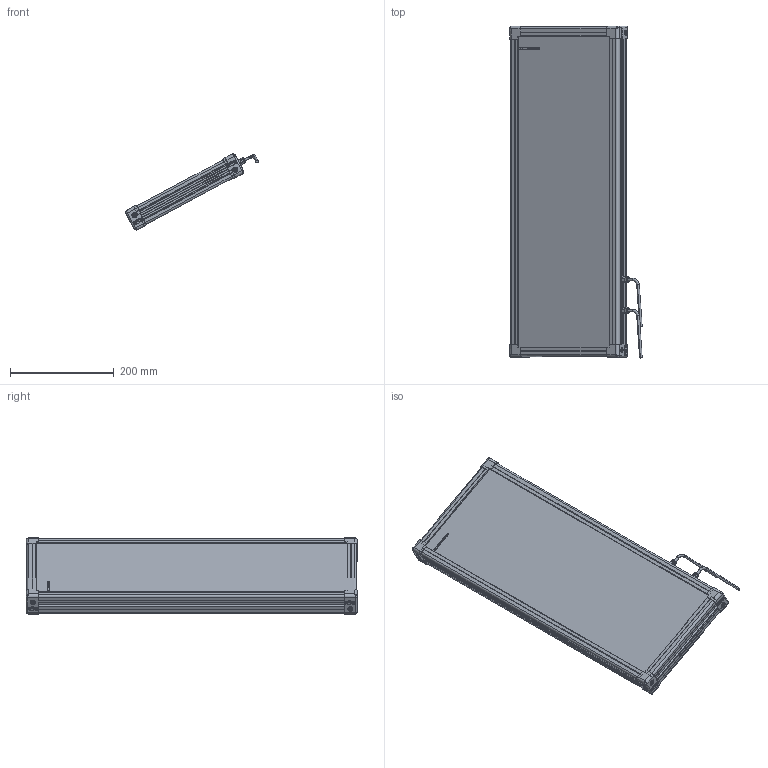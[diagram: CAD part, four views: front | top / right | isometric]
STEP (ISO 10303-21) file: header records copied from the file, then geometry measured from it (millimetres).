
FILE_DESCRIPTION (( 'STEP AP214' ), '1' );
FILE_NAME ('EFFI-BL-200-600-ZZZ 2xM12.STEP', '2021-06-18T12:19:34', ( '' ), ( '' ), 'SwSTEP 2.0', 'SolidWorks 2021', '' );
FILE_SCHEMA (( 'AUTOMOTIVE_DESIGN' ));
Length unit declared in the file: millimetre
Products named in the file (9): petite joue + vis; petite joue; profile Y_PERCE; EFFI-BL-200-600-ZZZ 2xM12; cordon_Avec cable; 000629; profile X_PERCE; Pièce13^EFFI-BL-XXX-YYY-ZZZ 2M12
Assembly tree (14 placements, depth 3):
  EFFI-BL-200-600-ZZZ 2xM12
    profile X_PERCE  x2
    profile Y_PERCE
    profile Y_PERCE
    Pièce13^EFFI-BL-XXX-YYY-ZZZ 2M12
    petite joue + vis  x4
      petite joue
      000629
    cordon_Avec cable  x2
Bounding box: 255.43 x 640.47 x 146.83 mm (x, y, z)
Volume: 5274945.8 mm3; surface area: 568793.6 mm2
Topology: 17 solids, 29 shells, 3676 faces, 9845 edges, 6512 vertices
Faces by surface type: plane 2429, cylinder 604, bspline 603, cone 20, torus 20
Entity records: 50770 total; most frequent: CARTESIAN_POINT 21759, ORIENTED_EDGE 6162, DIRECTION 4682, EDGE_CURVE 3085, VECTOR 2296, LINE 2296, VERTEX_POINT 2049, EDGE_LOOP 1252
